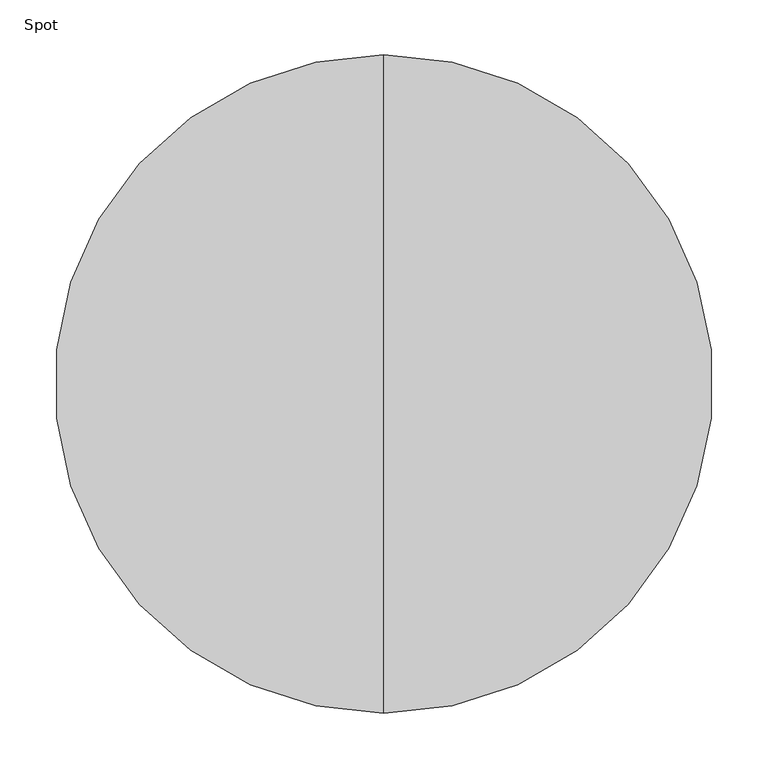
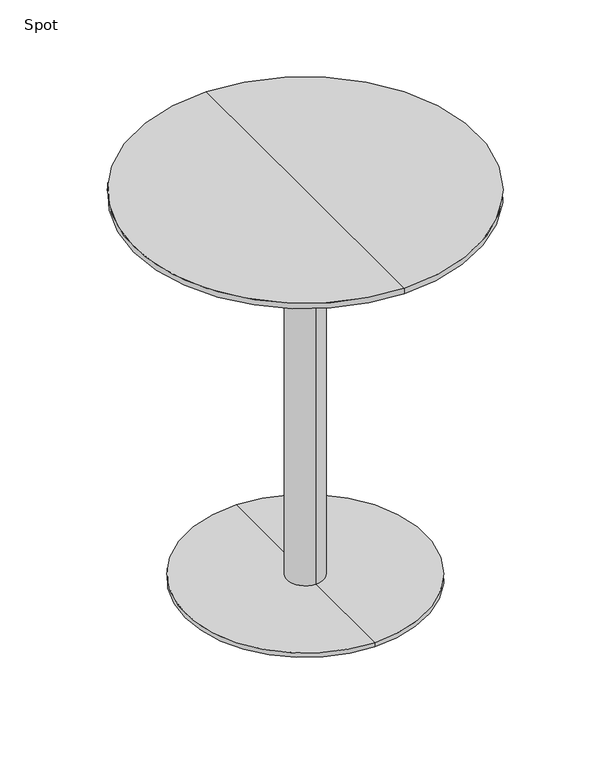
"""IFC4 building model written with IfcOpenShell, lengths in millimetres: furniture geometry, Spot : ø60x72."""

from ifc_helpers import new_model, si_unit, frame, origin, place, context, project, spatial, polyline, circle_curve, source, transform, mapped, element, save
from ifc_brep_helpers import plane_surface, cylinder_surface, revolved_surface, advanced_brep


def spot_f92d73a3(model_context):
    return source(origin(), model_context, "Body", "AdvancedBrep", [
        advanced_brep(
        [(0.0, -300.0, 720.0), (0.0, 300.0, 720.0), (0.0, 0.0, 720.0), (0.0, 300.0, 710.25), (0.0, -300.0, 710.25), (0.0, 0.0, 698.0), (0.0, -254.2823776, 698.0), (0.0, 254.2823776, 698.0)],
        [
            (0, 1, circle_curve(frame((0.0, 0.0, 720.0), z_axis=(0.0, 0.0, 1.0), x_axis=(0.0, -1.0, 0.0)), 300.0)),
            (1, 2),
            (2, 0),
            (3, 4, circle_curve(frame((0.0, 0.0, 710.25), z_axis=(0.0, 0.0, 1.0), x_axis=(0.0, -1.0, 0.0)), 300.0)),
            (4, 0),
            (0, 1, circle_curve(frame((0.0, 0.0, 720.0), z_axis=(0.0, 0.0, -1.0), x_axis=(0.0, -1.0, 0.0)), 300.0)),
            (1, 3),
            (5, 6),
            (6, 7, circle_curve(frame((0.0, 0.0, 698.0), z_axis=(0.0, 0.0, -1.0), x_axis=(0.0, -1.0, 0.0)), 254.2823776)),
            (7, 5),
            (7, 6, circle_curve(frame((0.0, 0.0, 698.0), z_axis=(0.0, 0.0, -1.0), x_axis=(0.0, -1.0, 0.0)), 254.2823776)),
            (4, 3, circle_curve(frame((0.0, 0.0, 710.25), z_axis=(0.0, 0.0, 1.0), x_axis=(0.0, -1.0, 0.0)), 300.0)),
            (6, 4),
            (3, 7),
        ],
        [
            plane_surface(frame((0.0, 0.0, 720.0), z_axis=(0.0, 0.0, 1.0), x_axis=(0.0, -1.0, 0.0))),
            cylinder_surface(frame((0.0, 0.0, 800.0), z_axis=(0.0, 0.0, -1.0), x_axis=(0.0, -1.0, 0.0)), 300.0),
            plane_surface(frame((0.0, 0.0, 698.0), z_axis=(0.0, 0.0, -1.0), x_axis=(0.0, -1.0, 0.0))),
            revolved_surface(polyline([(0.0, -300.0, 710.25), (0.0, -254.2823776, 698.0)]), (0.0, 0.0, 800.0), (0.0, 0.0, -1.0)),
        ],
        [
            (0, [[1, 2, 3]]),
            (1, [[4, 5, 6, 7]]),
            (2, [[8, 9, 10]]),
            (2, [[-10, 11, -8]]),
            (0, [[-6, -3, -2]]),
            (1, [[12, -7, -1, -5]]),
            (3, [[-9, 13, -4, 14]]),
            (3, [[-11, -14, -12, -13]]),
        ],
    ),
        advanced_brep(
        [(0.0, 32.0, 10.0), (0.0, -32.0, 10.0), (0.0, -32.0, 667.406916), (0.0, 32.0, 667.406916), (0.0, 210.0, 10.0), (0.0, -210.0, 10.0), (0.0, 210.0, 2.0), (0.0, -210.0, 2.0), (0.0, 0.0, 2.0), (0.0, 150.0, 698.0), (0.0, -150.0, 698.0), (0.0, 0.0, 698.0), (0.0, 150.0, 686.7213673), (0.0, -150.0, 686.7213673)],
        [
            (0, 1, circle_curve(frame((0.0, 0.0, 10.0), z_axis=(0.0, 0.0, 1.0), x_axis=(0.0, -1.0, 0.0)), 32.0)),
            (1, 2),
            (2, 3, circle_curve(frame((0.0, 0.0, 667.406916), z_axis=(0.0, 0.0, -1.0), x_axis=(0.0, -1.0, 0.0)), 32.0)),
            (3, 0),
            (1, 0, circle_curve(frame((0.0, 0.0, 10.0), z_axis=(0.0, 0.0, 1.0), x_axis=(0.0, -1.0, 0.0)), 32.0)),
            (3, 2, circle_curve(frame((0.0, 0.0, 667.406916), z_axis=(0.0, 0.0, -1.0), x_axis=(0.0, -1.0, 0.0)), 32.0)),
            (4, 5, circle_curve(frame((0.0, 0.0, 10.0), z_axis=(0.0, 0.0, 1.0), x_axis=(0.0, -1.0, 0.0)), 210.0)),
            (5, 1),
            (0, 4),
            (5, 4, circle_curve(frame((0.0, 0.0, 10.0), z_axis=(0.0, 0.0, 1.0), x_axis=(0.0, -1.0, 0.0)), 210.0)),
            (6, 7, circle_curve(frame((0.0, 0.0, 2.0), z_axis=(0.0, 0.0, 1.0), x_axis=(0.0, -1.0, 0.0)), 210.0)),
            (7, 5),
            (4, 6),
            (7, 6, circle_curve(frame((0.0, 0.0, 2.0), z_axis=(0.0, 0.0, 1.0), x_axis=(0.0, -1.0, 0.0)), 210.0)),
            (8, 7),
            (6, 8),
            (9, 10, circle_curve(frame((0.0, 0.0, 698.0), z_axis=(0.0, 0.0, 1.0), x_axis=(0.0, -1.0, 0.0)), 150.0)),
            (10, 11),
            (11, 9),
            (10, 9, circle_curve(frame((0.0, 0.0, 698.0), z_axis=(0.0, 0.0, 1.0), x_axis=(0.0, -1.0, 0.0)), 150.0)),
            (12, 13, circle_curve(frame((0.0, 0.0, 686.7213673), z_axis=(0.0, 0.0, 1.0), x_axis=(0.0, -1.0, 0.0)), 150.0)),
            (13, 10),
            (9, 12),
            (13, 12, circle_curve(frame((0.0, 0.0, 686.7213673), z_axis=(0.0, 0.0, 1.0), x_axis=(0.0, -1.0, 0.0)), 150.0)),
            (2, 13),
            (12, 3),
        ],
        [
            cylinder_surface(frame((0.0, 0.0, 1060.0), z_axis=(0.0, 0.0, -1.0), x_axis=(0.0, -1.0, 0.0)), 32.0),
            plane_surface(frame((0.0, 0.0, 10.0), z_axis=(0.0, 0.0, 1.0), x_axis=(0.0, -1.0, 0.0))),
            cylinder_surface(frame((0.0, 0.0, 1060.0), z_axis=(0.0, 0.0, -1.0), x_axis=(0.0, -1.0, 0.0)), 210.0),
            plane_surface(frame((0.0, 0.0, 2.0), z_axis=(0.0, 0.0, -1.0), x_axis=(0.0, -1.0, 0.0))),
            plane_surface(frame((0.0, 0.0, 698.0), z_axis=(0.0, 0.0, 1.0), x_axis=(0.0, -1.0, 0.0))),
            cylinder_surface(frame((0.0, 0.0, 1060.0), z_axis=(0.0, 0.0, -1.0), x_axis=(0.0, -1.0, 0.0)), 150.0),
            revolved_surface(polyline([(0.0, -150.0, 686.7213673), (0.0, -32.0, 667.406916)]), (0.0, 0.0, 1060.0), (0.0, 0.0, -1.0)),
        ],
        [
            (0, [[1, 2, 3, 4]]),
            (0, [[5, -4, 6, -2]]),
            (1, [[7, 8, -1, 9]]),
            (1, [[10, -9, -5, -8]]),
            (2, [[11, 12, -7, 13]]),
            (2, [[14, -13, -10, -12]]),
            (3, [[15, -11, 16]]),
            (3, [[-16, -14, -15]]),
            (4, [[17, 18, 19]]),
            (4, [[20, -19, -18]]),
            (5, [[21, 22, -17, 23]]),
            (5, [[24, -23, -20, -22]]),
            (6, [[-3, 25, -21, 26]]),
            (6, [[-6, -26, -24, -25]]),
        ],
    ),
    ])


if __name__ == "__main__":
    model = new_model("IFC4")
    model_context = context("Model", 3, world=origin())
    ifc_project = project(units=[si_unit("LENGTHUNIT", "METRE", prefix="MILLI")], contexts=[model_context])
    site = spatial("IfcSite", under=ifc_project)
    building = spatial("IfcBuilding", under=site)
    placement = place(None, origin())
    spot_shape = spot_f92d73a3(model_context)
    element("IfcFurniture", 1, ObjectType="Spot : ø60x72", at=placement, inside=building, context=model_context, shape_type="MappedRepresentation", body=[
        mapped(spot_shape, transform((0.0, 0.0, 0.0), x_axis=(1.0, 0.0, 0.0), y_axis=(0.0, 1.0, 0.0), z_axis=(0.0, 0.0, 1.0))),
    ])
    save(model, "model.ifc")
